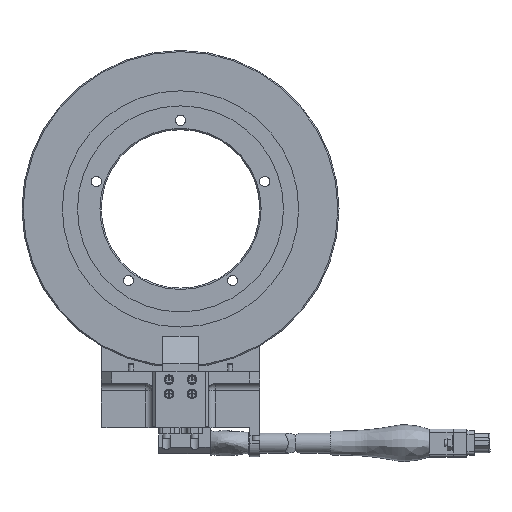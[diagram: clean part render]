
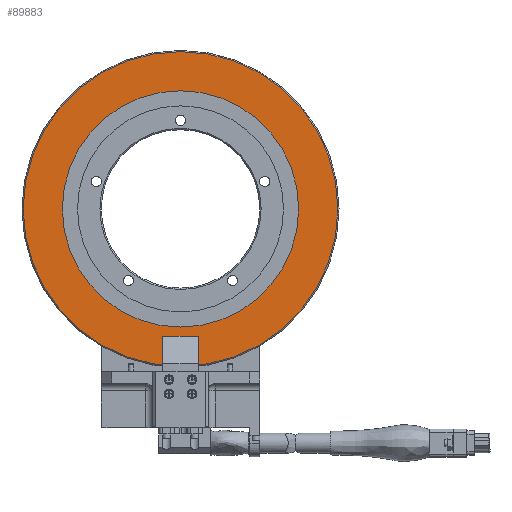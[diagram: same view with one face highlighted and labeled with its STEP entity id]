
A CAD part, front view. The second image highlights one B-rep face of the part: STEP entity #89883.
In plain terms, the highlighted planar face has unit normal (0, -1, 0).
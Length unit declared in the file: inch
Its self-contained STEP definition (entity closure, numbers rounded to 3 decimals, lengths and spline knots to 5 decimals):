
#2331 = EDGE_LOOP ( 'NONE', ( #80107 ) ) ;
#4987 = EDGE_CURVE ( 'NONE', #77068, #77068, #95126, .T. ) ;
#7875 = EDGE_LOOP ( 'NONE', ( #60424 ) ) ;
#11353 = AXIS2_PLACEMENT_3D ( 'NONE', #17493, #91097, #83293 ) ;
#13013 = VERTEX_POINT ( 'NONE', #27131 ) ;
#17493 = CARTESIAN_POINT ( 'NONE',  ( 0., 0.005, 0. ) ) ;
#19579 = CARTESIAN_POINT ( 'NONE',  ( 0., 0.005, 1.491 ) ) ;
#23127 = DIRECTION ( 'NONE',  ( 0., 1., 0. ) ) ;
#23433 = AXIS2_PLACEMENT_3D ( 'NONE', #41145, #70840, #79129 ) ;
#23483 = AXIS2_PLACEMENT_3D ( 'NONE', #67911, #23127, #75240 ) ;
#27131 = CARTESIAN_POINT ( 'NONE',  ( 1.985, 0.005, 0. ) ) ;
#35030 = EDGE_CURVE ( 'NONE', #13013, #13013, #45181, .T. ) ;
#36563 = FACE_BOUND ( 'NONE', #2331, .T. ) ;
#41145 = CARTESIAN_POINT ( 'NONE',  ( 0., 0.005, 0. ) ) ;
#45181 = CIRCLE ( 'NONE', #23433, 1.985 ) ;
#52144 = PLANE ( 'NONE',  #11353 ) ;
#60424 = ORIENTED_EDGE ( 'NONE', *, *, #35030, .T. ) ;
#65778 = FACE_OUTER_BOUND ( 'NONE', #7875, .T. ) ;
#67911 = CARTESIAN_POINT ( 'NONE',  ( 0., 0.005, 0. ) ) ;
#70840 = DIRECTION ( 'NONE',  ( 0., -1., 0. ) ) ;
#75240 = DIRECTION ( 'NONE',  ( 0., 0., 1. ) ) ;
#77068 = VERTEX_POINT ( 'NONE', #19579 ) ;
#79129 = DIRECTION ( 'NONE',  ( 1., 0., 0. ) ) ;
#80107 = ORIENTED_EDGE ( 'NONE', *, *, #4987, .T. ) ;
#83293 = DIRECTION ( 'NONE',  ( 1., 0., 0. ) ) ;
#89883 = ADVANCED_FACE ( 'NONE', ( #65778, #36563 ), #52144, .F. ) ;
#91097 = DIRECTION ( 'NONE',  ( 0., 1., 0. ) ) ;
#95126 = CIRCLE ( 'NONE', #23483, 1.491 ) ;
